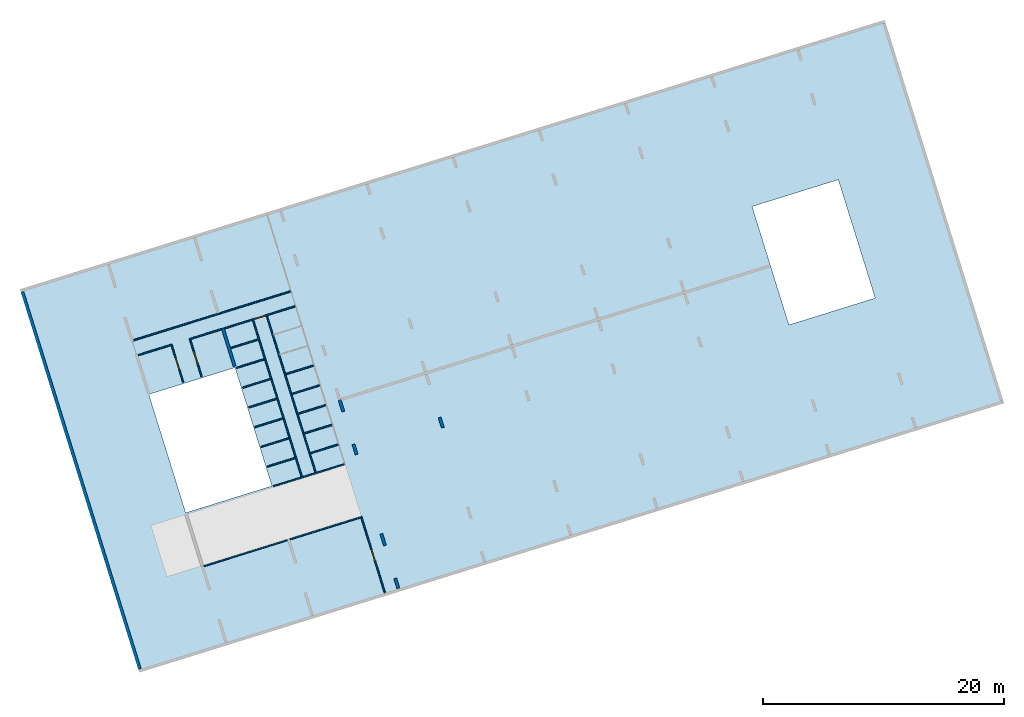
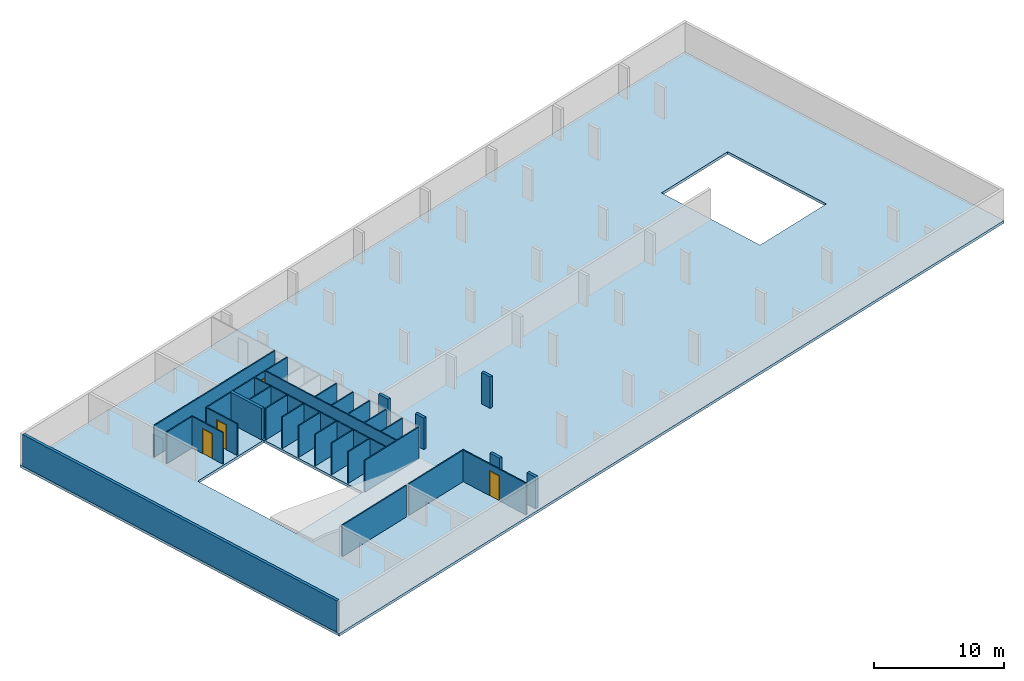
# One storey, part 1 of 4: 31 walls, 4 doors, 1 slab, 6 openings.
"""IFC4 building model written with IfcOpenShell, lengths in metres."""

from ifc_helpers import new_model, entity, si_unit, converted_unit, direction, frame, origin, place, context, subcontext, project, spatial, indexed_curve, outline, extrude, polygons, source, transform, mapped, material, constituent, constituent_set, type_object, type_shapes, element, fill, save


model = new_model("IFC4")

# Units and contexts
model_context = context("Model", 3, precision=1e-05, world=origin(), true_north=direction((6.12323399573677e-17, 1.0)))
body_context = subcontext(model_context, "Body", "Model", "MODEL_VIEW")
ifc_project = project(units=[si_unit("LENGTHUNIT", "METRE"), si_unit("AREAUNIT", "SQUARE_METRE"), si_unit("VOLUMEUNIT", "CUBIC_METRE"), converted_unit("PLANEANGLEUNIT", "DEGREE", entity("IfcPlaneAngleMeasure", 0.0174532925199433), si_unit("PLANEANGLEUNIT", "RADIAN"), dimensions=[0, 0, 0, 0, 0, 0, 0])], contexts=[model_context])

# Site, building, storey
site_placement = place(None, frame((13.1347999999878, 11.9886000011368, 0.0), z_axis=(0.0, 0.0, 1.0), x_axis=(0.954770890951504, 0.297342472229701, 0.0)))
site = spatial("IfcSite", under=ifc_project, at=site_placement, Name="Schiehaven", CompositionType="ELEMENT")
building_placement = place(site_placement, origin())
building = spatial("IfcBuilding", under=site, at=building_placement, Name="VORM huis", CompositionType="ELEMENT")
storey_placement = place(building_placement, frame((0.0, 0.0, -3.2)))
storey = spatial("IfcBuildingStorey", under=building, at=storey_placement, Name="-1 kelder", CompositionType="ELEMENT", Elevation=-3.2)

# Slab, openings
ifc_material_1 = material(Name="beton_gewapend_ihw", Category="Miscellaneous")
slab_type = type_object("IfcSlabType", Name="Floor:13_FL_funderingvloer 250mm", PredefinedType="FLOOR", material=ifc_material_1)
slab_placement = place(storey_placement, origin())
slab = element("IfcSlab", 1, at=slab_placement, inside=storey, type_object=slab_type, material=ifc_material_1, Name="Funderingvloer", ObjectType="Vloer", PredefinedType="FLOOR", context=body_context, shape_type="SweptSolid", body=[
    extrude(outline(indexed_curve([(-37.6250000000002, -16.6750000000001), (37.6250000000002, -16.6750000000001), (37.6250000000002, 16.6750000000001), (-37.6250000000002, 16.6750000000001), (-37.6250000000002, -16.6750000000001)], self_intersect=False), holes=[indexed_curve([(22.5000000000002, -5.14999999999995), (22.5000000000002, 5.15000000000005), (30.0000000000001, 5.15000000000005), (30.0000000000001, -5.14999999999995), (22.5000000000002, -5.14999999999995)], self_intersect=False), indexed_curve([(-29.9999999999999, -5.14999999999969), (-29.9999999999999, 5.15000000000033), (-22.4999999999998, 5.15000000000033), (-22.4999999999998, -5.14999999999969), (-29.9999999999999, -5.14999999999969)], self_intersect=False)]), frame((42.5000000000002, 17.0500000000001, -0.25), z_axis=(0.0, 0.0, 1.0), x_axis=(-1.0, 0.0, 0.0)), (0.0, 0.0, 1.0), 0.25),
])
opening_1_placement = place(slab_placement, origin())
element("IfcOpeningElement", 2, at=opening_1_placement, cuts=slab, Name="Funderingvloer", PredefinedType="OPENING", context=body_context, shape_type="SweptSolid", body=[
    extrude(outline(indexed_curve([(-5.15, -3.74999999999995), (5.15, -3.74999999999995), (5.15, 3.74999999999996), (-5.15, 3.74999999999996), (-5.15, -3.74999999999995)], self_intersect=False)), frame((16.2500000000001, 17.05, 0.0), z_axis=(0.0, 0.0, -1.0), x_axis=(0.0, -1.0, 0.0)), (0.0, 0.0, 1.0), 33.3500000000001),
])
opening_2_placement = place(slab_placement, origin())
element("IfcOpeningElement", 3, at=opening_2_placement, cuts=slab, Name="Funderingvloer", PredefinedType="OPENING", context=body_context, shape_type="SweptSolid", body=[
    extrude(outline(indexed_curve([(-5.15000000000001, -3.75000000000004), (5.15000000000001, -3.75000000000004), (5.15000000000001, 3.75000000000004), (-5.15000000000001, 3.75000000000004), (-5.15000000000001, -3.75000000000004)], self_intersect=False)), frame((68.7500000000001, 17.0499999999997, 0.0), z_axis=(0.0, 0.0, -1.0), x_axis=(0.0, -1.0, 0.0)), (0.0, 0.0, 1.0), 33.3500000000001),
])

# Walls
wall_type_1 = type_object("IfcWallType", Name="Basic Wall:28_WA_skelet_keerwand 250mm_gen", PredefinedType="STANDARD")
wall_1_placement = place(storey_placement, frame((5.0, 0.624999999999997, 0.0), z_axis=(0.0, 0.0, 1.0), x_axis=(0.0, 1.0, 0.0)))
element("IfcWall", 4, at=wall_1_placement, inside=storey, type_object=wall_type_1, material=ifc_material_1, Name="Constructieve keerwand", ObjectType="Wand", PredefinedType="NOTDEFINED", context=body_context, shape_type="SweptSolid", body=[
    extrude(outline(indexed_curve([(32.8500000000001, 0.125), (0.0, 0.125), (0.0, -0.125), (32.8500000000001, -0.125), (32.8500000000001, 0.125)], self_intersect=False)), origin(), (0.0, 0.0, 1.0), 2.95),
])
wall_type_2 = type_object("IfcWallType", Name="Basic Wall:28_WA_skelet_wand 250mm_gen", PredefinedType="STANDARD")
wall_2_placement = place(storey_placement, frame((20.0, 25.6249999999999, 0.0), z_axis=(0.0, 0.0, 1.0), x_axis=(0.0, -1.0, 0.0)))
element("IfcWall", 5, at=wall_2_placement, inside=storey, type_object=wall_type_2, material=ifc_material_1, Name="Constructieve wand", ObjectType="Wand", PredefinedType="NOTDEFINED", context=body_context, shape_type="SweptSolid", body=[
    extrude(outline(indexed_curve([(3.29999999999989, 0.125000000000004), (-1.06511520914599e-15, 0.125000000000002), (1.06511520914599e-15, -0.125000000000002), (3.29999999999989, -0.125), (3.29999999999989, 0.125000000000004)], self_intersect=False)), origin(), (0.0, 0.0, 1.0), 2.95),
])
for number, where, z_axis, x_axis, name in (
    (6, (35.0, 12.2949999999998, 0.0), (0.0, 0.0, 1.0), (0.0, 1.0, 0.0), "Constructieve wand"),
    (7, (27.5000000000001, 12.2949999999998, 0.0), (0.0, 0.0, 1.0), (0.0, 1.0, 0.0), "Constructieve wand"),
):
    element("IfcWall", number, at=place(storey_placement, frame(where, z_axis=z_axis, x_axis=x_axis)), inside=storey, type_object=wall_type_2, material=ifc_material_1, Name=name, ObjectType="Wand", PredefinedType="NOTDEFINED", context=body_context, shape_type="SweptSolid", body=[
        extrude(outline(indexed_curve([(0.900000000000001, 0.125000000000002), (0.0, 0.125000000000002), (0.0, -0.125000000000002), (0.900000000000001, -0.125000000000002), (0.900000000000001, 0.125000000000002)], self_intersect=False)), origin(), (0.0, 0.0, 1.0), 2.95),
    ])
wall_3_placement = place(storey_placement, frame((27.5000000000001, 16.0249999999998, 0.0), z_axis=(0.0, 0.0, 1.0), x_axis=(0.0, 1.0, 0.0)))
element("IfcWall", 8, at=wall_3_placement, inside=storey, type_object=wall_type_2, material=ifc_material_1, Name="Constructieve wand", ObjectType="Wand", PredefinedType="NOTDEFINED", context=body_context, shape_type="SweptSolid", body=[
    extrude(outline(indexed_curve([(1.02500000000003, 0.125000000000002), (0.0, 0.125000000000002), (0.0, -0.125000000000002), (1.02500000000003, -0.125000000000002), (1.02500000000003, 0.125000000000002)], self_intersect=False)), origin(), (0.0, 0.0, 1.0), 2.95),
])
wall_4_placement = place(storey_placement, frame((27.5000000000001, 4.3749999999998, 0.0), z_axis=(0.0, 0.0, 1.0), x_axis=(0.0, 1.0, 0.0)))
element("IfcWall", 9, at=wall_4_placement, inside=storey, type_object=wall_type_2, material=ifc_material_1, Name="Constructieve wand", ObjectType="Wand", PredefinedType="NOTDEFINED", context=body_context, shape_type="SweptSolid", body=[
    extrude(outline(indexed_curve([(1.025, 0.125000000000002), (0.0, 0.125000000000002), (0.0, -0.125000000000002), (1.025, -0.125000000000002), (1.025, 0.125000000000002)], self_intersect=False)), origin(), (0.0, 0.0, 1.0), 2.95),
])
wall_5_placement = place(storey_placement, frame((27.5000000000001, 1.52500000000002, 0.0), z_axis=(0.0, 0.0, 1.0), x_axis=(0.0, -1.0, 0.0)))
element("IfcWall", 10, at=wall_5_placement, inside=storey, type_object=wall_type_2, material=ifc_material_1, Name="Constructieve wand", ObjectType="Wand", PredefinedType="NOTDEFINED", context=body_context, shape_type="SweptSolid", body=[
    extrude(outline(indexed_curve([(0.900000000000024, 0.125000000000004), (2.39074561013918e-16, 0.125000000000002), (-2.39074561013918e-16, -0.125000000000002), (0.900000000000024, -0.125), (0.900000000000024, 0.125000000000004)], self_intersect=False)), origin(), (0.0, 0.0, 1.0), 2.95),
])
ifc_material_2 = material(Name="ntb_ntb_ntb", Category="Miscellaneous")
wall_type_3 = type_object("IfcWallType", Name="Basic Wall:22_WA_afbouw_binnenwand 100mm_gen", PredefinedType="STANDARD")
wall_6_placement = place(storey_placement, frame((26.2750000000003, 11.825, 0.0), z_axis=(0.0, 0.0, 1.0), x_axis=(-1.0, 0.0, 0.0)))
element("IfcWall", 11, at=wall_6_placement, inside=storey, type_object=wall_type_3, material=ifc_material_2, Name="Binnenwand", ObjectType="Wand", PredefinedType="NOTDEFINED", context=body_context, shape_type="SweptSolid", body=[
    extrude(outline(indexed_curve([(6.15000000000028, 0.0499999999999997), (-1.60577808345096e-16, 0.0499999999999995), (1.60577808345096e-16, -0.0499999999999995), (6.15000000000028, -0.0499999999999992), (6.15000000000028, 0.0499999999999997)], self_intersect=False)), origin(), (0.0, 0.0, 1.0), 2.95),
])
wall_7_placement = place(storey_placement, frame((26.3750000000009, 7.22500000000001, 0.0), z_axis=(0.0, 0.0, 1.0), x_axis=(-1.0, 0.0, 0.0)))
element("IfcWall", 12, at=wall_7_placement, inside=storey, type_object=wall_type_3, material=ifc_material_2, Name="Binnenwand", ObjectType="Wand", PredefinedType="NOTDEFINED", context=body_context, shape_type="SweptSolid", body=[
    extrude(outline(indexed_curve([(6.25000000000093, 0.05), (-1.60577808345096e-16, 0.0499999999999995), (1.60577808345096e-16, -0.0499999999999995), (6.25000000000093, -0.0499999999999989), (6.25000000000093, 0.05)], self_intersect=False)), origin(), (0.0, 0.0, 1.0), 2.95),
])

# Wall, opening, door
wall_8_placement = place(storey_placement, frame((26.3250000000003, 0.624999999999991, 0.0), z_axis=(0.0, 0.0, 1.0), x_axis=(0.0, 1.0, 0.0)))
wall_8 = element("IfcWall", 13, at=wall_8_placement, inside=storey, type_object=wall_type_3, material=ifc_material_2, Name="Binnenwand", ObjectType="Wand", PredefinedType="NOTDEFINED", context=body_context, shape_type="Tessellation", body=[
    polygons([(6.55000000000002, -0.0499999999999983, 2.95), (0.0, -0.0499999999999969, 2.95), (0.0, -0.0499999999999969, 0.0), (2.75, -0.0499999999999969, 0.0), (2.75, -0.0499999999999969, 2.34999999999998), (3.8, -0.0499999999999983, 2.34999999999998), (3.8, -0.0499999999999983, 0.0), (6.55000000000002, -0.0499999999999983, 0.0), (0.0, 0.0500000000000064, 2.95), (6.55000000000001, 0.0499999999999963, 2.95), (6.55000000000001, 0.0499999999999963, 0.0), (3.8, 0.0500000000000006, 0.0), (3.8, 0.0500000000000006, 2.34999999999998), (2.75, 0.0500000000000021, 2.34999999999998), (2.75, 0.0500000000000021, 0.0), (0.0, 0.0500000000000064, 0.0)], [[[1, 2, 3, 4, 5, 6, 7, 8]], [[9, 10, 11, 12, 13, 14, 15, 16]], [[3, 16, 15, 4]], [[2, 1, 10, 9]], [[3, 2, 9, 16]], [[14, 5, 4, 15]], [[5, 14, 13, 6]], [[6, 13, 12, 7]], [[1, 8, 11, 10]], [[11, 8, 7, 12]]], closed=True),
])
opening_3_placement = place(wall_8_placement, frame((3.80000000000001, 0.0499999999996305, 0.0)))
opening_3 = element("IfcOpeningElement", 14, at=opening_3_placement, cuts=wall_8, Name="Vluchtdeur", PredefinedType="OPENING", context=body_context, shape_type="SweptSolid", body=[
    extrude(outline(indexed_curve([(2.34999999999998, -1.37155131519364e-28), (2.34999999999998, 1.05), (0.0, 1.05), (0.0, -1.37155131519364e-28), (2.34999999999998, -1.37155131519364e-28)], self_intersect=False)), frame((0.0, 0.0, 0.0), z_axis=(0.0, -1.0, 0.0), x_axis=(0.0, 0.0, 1.0)), (0.0, 0.0, 1.0), 0.1),
])
ifc_material_3 = material(Name="PD_a_binnenwandopeningen", Category="Miscellaneous")
ifc_constituent_1 = constituent(ifc_material_3, Name="PD_a_binnenwandopeningen", Category="Miscellaneous")
ifc_material_4 = material(Name="metaal_aluminium_ntb", Category="Miscellaneous")
ifc_constituent_2 = constituent(ifc_material_4, Name="metaal_aluminium_ntb", Category="Miscellaneous")
ifc_constituent_set_1 = constituent_set(constituents=[ifc_constituent_1, ifc_constituent_2])
ifc_constituent_3 = constituent(ifc_material_3, Name="PD_a_binnenwandopeningen", Category="Miscellaneous")
ifc_constituent_4 = constituent(ifc_material_4, Name="Panel", Category="Miscellaneous")
ifc_constituent_set_2 = constituent_set(constituents=[ifc_constituent_3, ifc_constituent_4])
door_type_1 = type_object("IfcDoorType", Name="32_DO_binnendeur enkel:binnendeur zelfsluitend 30min", OperationType="NOTDEFINED", PredefinedType="DOOR", material=ifc_constituent_set_2)
shared_shape_1 = source(origin(), body_context, "Body", "SweptSolid", [
    extrude(outline(indexed_curve([(0.475, -1.16249999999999), (0.525, -1.16249999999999), (0.525, 1.18749999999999), (-0.525, 1.18749999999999), (-0.525, -1.16249999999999), (-0.475, -1.16249999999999), (-0.475, 1.13749999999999), (0.475, 1.13749999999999), (0.475, -1.16249999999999)], self_intersect=False)), frame((0.525000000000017, 0.100000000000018, 1.16249999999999), z_axis=(0.0, -1.0, 0.0), x_axis=(1.0, 0.0, 0.0)), (0.0, 0.0, 1.0), 0.1),
    extrude(outline(indexed_curve([(-0.475, -0.025), (0.475, -0.025), (0.475, 0.025), (-0.475, 0.025), (-0.475, -0.025)], self_intersect=False)), frame((0.525000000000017, 0.0499999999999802, 0.0)), (0.0, 0.0, 1.0), 2.29999999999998),
])
type_shapes(door_type_1, [shared_shape_1])
door_1_placement = place(opening_3_placement, frame((0.0, 0.0, 0.0), z_axis=(0.0, 0.0, 1.0), x_axis=(-1.0, 0.0, 0.0)))
door_1 = element("IfcDoor", 15, at=door_1_placement, inside=storey, type_object=door_type_1, material=ifc_constituent_set_1, Name="Vluchtdeur", ObjectType="Deur", OperationType="NOTDEFINED", OverallHeight=2.34999999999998, OverallWidth=1.05, PredefinedType="DOOR", context=body_context, shape_type="MappedRepresentation", body=[
    mapped(shared_shape_1, transform((0.0, 0.0, 0.0), scale=1.0)),
])
fill(opening_3, door_1)

# Walls
wall_9_placement = place(storey_placement, frame((12.6250000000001, 7.22500000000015, 0.0)))
element("IfcWall", 16, at=wall_9_placement, inside=storey, type_object=wall_type_3, material=ifc_material_2, Name="Binnenwand", ObjectType="Wand", PredefinedType="NOTDEFINED", context=body_context, shape_type="SweptSolid", body=[
    extrude(outline(indexed_curve([(7.25000000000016, 0.0499999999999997), (-4.87118418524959e-16, 0.0499999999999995), (4.87118418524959e-16, -0.0499999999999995), (7.25000000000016, -0.0499999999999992), (7.25000000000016, 0.0499999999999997)], self_intersect=False)), origin(), (0.0, 0.0, 1.0), 2.95),
])
wall_10_placement = place(storey_placement, frame((26.2750000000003, 26.8749999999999, 0.0), z_axis=(0.0, 0.0, 1.0), x_axis=(-1.0, 0.0, 0.0)))
element("IfcWall", 17, at=wall_10_placement, inside=storey, type_object=wall_type_3, material=ifc_material_2, Name="Binnenwand", ObjectType="Wand", PredefinedType="NOTDEFINED", context=body_context, shape_type="SweptSolid", body=[
    extrude(outline(indexed_curve([(13.6500000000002, 0.0500000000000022), (-1.60577808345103e-16, 0.0500000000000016), (1.60577808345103e-16, -0.0500000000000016), (13.6500000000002, -0.0500000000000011), (13.6500000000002, 0.0500000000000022)], self_intersect=False)), origin(), (0.0, 0.0, 1.0), 2.95),
])

# Wall, opening, door
wall_11_placement = place(storey_placement, frame((26.2750000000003, 25.5749999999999, 0.0), z_axis=(0.0, 0.0, 1.0), x_axis=(-1.0, 0.0, 0.0)))
wall_11 = element("IfcWall", 18, at=wall_11_placement, inside=storey, type_object=wall_type_3, material=ifc_material_2, Name="Binnenwand", ObjectType="Wand", PredefinedType="NOTDEFINED", context=body_context, shape_type="Tessellation", body=[
    polygons([(3.6000000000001, -0.0499999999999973, 2.34999999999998), (3.6000000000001, -0.0499999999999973, 0.0), (6.15000000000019, -0.0499999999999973, 0.0), (6.15000000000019, -0.0499999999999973, 2.95), (2.3054590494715e-15, -0.0499999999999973, 2.95), (2.3054590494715e-15, -0.0499999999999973, 0.0), (2.55000000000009, -0.0499999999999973, 0.0), (2.5500000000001, -0.0499999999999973, 2.34999999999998), (6.15000000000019, 0.0500000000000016, 0.0), (3.7250000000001, 0.0500000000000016, 0.0), (3.6250000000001, 0.0500000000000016, 0.0), (3.6000000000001, 0.0500000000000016, 0.0), (3.6000000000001, 0.0500000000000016, 2.34999999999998), (2.5500000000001, 0.0500000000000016, 2.34999999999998), (2.55000000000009, 0.0500000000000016, 0.0), (2.5250000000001, 0.0500000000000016, 0.0), (2.4250000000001, 0.050000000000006, 0.0), (2.02600946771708e-15, 0.0500000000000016, 0.0), (6.35747798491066e-15, 0.0500000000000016, 2.95), (2.4250000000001, 0.050000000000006, 2.95), (2.5250000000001, 0.0500000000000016, 2.95), (3.6250000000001, 0.0500000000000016, 2.95), (3.7250000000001, 0.0500000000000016, 2.95), (6.15000000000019, 0.0500000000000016, 2.95)], [[[1, 2, 3, 4, 5, 6, 7, 8]], [[9, 10, 11, 12, 13, 14, 15, 16, 17, 18, 19, 20, 21, 22, 23, 24]], [[7, 6, 18, 17, 16, 15]], [[4, 3, 9, 24]], [[5, 4, 24, 23, 22, 21, 20, 19]], [[6, 5, 19, 18]], [[15, 14, 8, 7]], [[13, 12, 2, 1]], [[14, 13, 1, 8]], [[3, 2, 12, 11, 10, 9]]], closed=True),
])
opening_4_placement = place(wall_11_placement, frame((3.60000000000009, 0.049999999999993, 0.0)))
opening_4 = element("IfcOpeningElement", 19, at=opening_4_placement, cuts=wall_11, Name="Vluchtdeur", PredefinedType="OPENING", context=body_context, shape_type="SweptSolid", body=[
    extrude(outline(indexed_curve([(2.34999999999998, 1.05), (0.0, 1.05), (0.0, 0.0), (2.34999999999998, 0.0), (2.34999999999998, 1.05)], self_intersect=False)), frame((0.0, 0.0, 0.0), z_axis=(0.0, -1.0, 0.0), x_axis=(0.0, 0.0, 1.0)), (0.0, 0.0, 1.0), 0.1),
])
ifc_constituent_5 = constituent(ifc_material_3, Name="PD_a_binnenwandopeningen", Category="Miscellaneous")
ifc_constituent_6 = constituent(ifc_material_4, Name="metaal_aluminium_ntb", Category="Miscellaneous")
ifc_constituent_set_3 = constituent_set(constituents=[ifc_constituent_5, ifc_constituent_6])
ifc_constituent_7 = constituent(ifc_material_3, Name="PD_a_binnenwandopeningen", Category="Miscellaneous")
ifc_constituent_8 = constituent(ifc_material_4, Name="Panel", Category="Miscellaneous")
ifc_constituent_set_4 = constituent_set(constituents=[ifc_constituent_7, ifc_constituent_8])
door_type_2 = type_object("IfcDoorType", Name="32_DO_binnendeur enkel:binnendeur zelfsluitend 30min", OperationType="NOTDEFINED", PredefinedType="DOOR", material=ifc_constituent_set_4)
shared_shape_2 = source(origin(), body_context, "Body", "SweptSolid", [
    extrude(outline(indexed_curve([(-1.16249999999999, -0.525000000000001), (1.18749999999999, -0.525), (1.18749999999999, 0.525), (-1.16249999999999, 0.525), (-1.16249999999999, 0.475), (1.13749999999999, 0.475), (1.13749999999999, -0.475), (-1.16249999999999, -0.475), (-1.16249999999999, -0.525000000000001)], self_intersect=False)), frame((0.525000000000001, 0.0, 1.16249999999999), z_axis=(0.0, 1.0, 0.0), x_axis=(0.0, 0.0, 1.0)), (0.0, 0.0, 1.0), 0.1),
    extrude(outline(indexed_curve([(-0.025, -0.475), (0.025, -0.475), (0.025, 0.475), (-0.025, 0.475), (-0.025, -0.475)], self_intersect=False)), frame((0.525000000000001, 0.0499999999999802, 0.0), z_axis=(0.0, 0.0, 1.0), x_axis=(0.0, 1.0, 0.0)), (0.0, 0.0, 1.0), 2.29999999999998),
])
type_shapes(door_type_2, [shared_shape_2])
door_2_placement = place(opening_4_placement, frame((0.0, 0.0, 0.0), z_axis=(0.0, 0.0, 1.0), x_axis=(-1.0, 0.0, 0.0)))
door_2 = element("IfcDoor", 20, at=door_2_placement, inside=storey, type_object=door_type_2, material=ifc_constituent_set_3, Name="Vluchtdeur", ObjectType="Deur", OperationType="NOTDEFINED", OverallHeight=2.34999999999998, OverallWidth=1.05, PredefinedType="DOOR", context=body_context, shape_type="MappedRepresentation", body=[
    mapped(shared_shape_2, transform((0.0, 0.0, 0.0), scale=1.0)),
])
fill(opening_4, door_2)

wall_12_placement = place(storey_placement, frame((17.1250000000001, 25.5249999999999, 0.0), z_axis=(0.0, 0.0, 1.0), x_axis=(0.0, -1.0, 0.0)))
wall_12 = element("IfcWall", 21, at=wall_12_placement, inside=storey, type_object=wall_type_3, material=ifc_material_2, Name="Binnenwand", ObjectType="Wand", PredefinedType="NOTDEFINED", context=body_context, shape_type="Tessellation", body=[
    polygons([(0.0, -0.0500000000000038, 0.0), (1.07499999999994, -0.0500000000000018, 0.0), (1.07499999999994, -0.0500000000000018, 2.34999999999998), (2.12499999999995, -0.050000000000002, 2.34999999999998), (2.12499999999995, -0.050000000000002, 0.0), (3.1999999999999, -0.0500000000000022, 0.0), (3.1999999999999, -0.0500000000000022, 2.95), (0.0, -0.0500000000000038, 2.95), (1.07499999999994, 0.0499999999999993, 2.34999999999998), (1.07499999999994, 0.0499999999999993, 0.0), (0.0, 0.0499999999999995, 0.0), (0.0, 0.0499999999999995, 2.95), (3.1999999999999, 0.0499999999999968, 2.95), (3.1999999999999, 0.0499999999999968, 0.0), (2.12499999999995, 0.0499999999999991, 0.0), (2.12499999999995, 0.0499999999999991, 2.34999999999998)], [[[1, 2, 3, 4, 5, 6, 7, 8]], [[9, 10, 11, 12, 13, 14, 15, 16]], [[11, 10, 2, 1]], [[7, 6, 14, 13]], [[8, 7, 13, 12]], [[1, 8, 12, 11]], [[5, 4, 16, 15]], [[3, 2, 10, 9]], [[4, 3, 9, 16]], [[15, 14, 6, 5]]], closed=True),
])
opening_5_placement = place(wall_12_placement, frame((2.12499999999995, 0.0499999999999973, 0.0)))
opening_5 = element("IfcOpeningElement", 22, at=opening_5_placement, cuts=wall_12, Name="Vluchtdeur", PredefinedType="OPENING", context=body_context, shape_type="SweptSolid", body=[
    extrude(outline(indexed_curve([(2.34999999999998, 0.0), (2.34999999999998, 1.05), (0.0, 1.05), (0.0, 0.0), (2.34999999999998, 0.0)], self_intersect=False)), frame((0.0, 0.0, 0.0), z_axis=(0.0, -1.0, 0.0), x_axis=(0.0, 0.0, 1.0)), (0.0, 0.0, 1.0), 0.1),
])
ifc_constituent_9 = constituent(ifc_material_3, Name="PD_a_binnenwandopeningen", Category="Miscellaneous")
ifc_constituent_10 = constituent(ifc_material_4, Name="metaal_aluminium_ntb", Category="Miscellaneous")
ifc_constituent_set_5 = constituent_set(constituents=[ifc_constituent_9, ifc_constituent_10])
door_3_placement = place(opening_5_placement, frame((0.0, 0.0, 0.0), z_axis=(0.0, 0.0, 1.0), x_axis=(-1.0, 0.0, 0.0)))
door_3 = element("IfcDoor", 23, at=door_3_placement, inside=storey, type_object=door_type_1, material=ifc_constituent_set_5, Name="Vluchtdeur", ObjectType="Deur", OperationType="NOTDEFINED", OverallHeight=2.34999999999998, OverallWidth=1.05, PredefinedType="DOOR", context=body_context, shape_type="MappedRepresentation", body=[
    mapped(shared_shape_1, transform((0.0, 0.0, 0.0), scale=1.0)),
])
fill(opening_5, door_3)

wall_13_placement = place(storey_placement, frame((15.5250000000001, 25.6249999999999, 0.0), z_axis=(0.0, 0.0, 1.0), x_axis=(0.0, -1.0, 0.0)))
wall_13 = element("IfcWall", 24, at=wall_13_placement, inside=storey, type_object=wall_type_3, material=ifc_material_2, Name="Binnenwand", ObjectType="Wand", PredefinedType="NOTDEFINED", context=body_context, shape_type="Tessellation", body=[
    polygons([(0.0, -0.0499999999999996, 0.0), (0.0999999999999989, -0.0500000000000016, 0.0), (1.17499999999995, -0.0500000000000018, 0.0), (1.17499999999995, -0.0500000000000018, 2.34999999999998), (2.22499999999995, -0.050000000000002, 2.34999999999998), (2.22499999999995, -0.050000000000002, 0.0), (3.2999999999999, -0.0500000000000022, 0.0), (3.2999999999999, -0.0500000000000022, 2.95), (0.0999999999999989, -0.0500000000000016, 2.95), (0.0, -0.0499999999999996, 2.95), (1.17499999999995, 0.0499999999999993, 2.34999999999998), (1.17499999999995, 0.0499999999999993, 0.0), (0.0, 0.0499999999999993, 0.0), (0.0, 0.0499999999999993, 2.95), (3.2999999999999, 0.0500000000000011, 2.95), (3.2999999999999, 0.0500000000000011, 0.0), (2.22499999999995, 0.0499999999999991, 0.0), (2.22499999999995, 0.0499999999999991, 2.34999999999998)], [[[1, 2, 3, 4, 5, 6, 7, 8, 9, 10]], [[11, 12, 13, 14, 15, 16, 17, 18]], [[13, 12, 3, 2, 1]], [[8, 7, 16, 15]], [[10, 9, 8, 15, 14]], [[1, 10, 14, 13]], [[6, 5, 18, 17]], [[4, 3, 12, 11]], [[5, 4, 11, 18]], [[17, 16, 7, 6]]], closed=True),
])
opening_6_placement = place(wall_13_placement, frame((1.17499999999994, -0.0500000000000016, 0.0)))
opening_6 = element("IfcOpeningElement", 25, at=opening_6_placement, cuts=wall_13, Name="Vluchtdeur", PredefinedType="OPENING", context=body_context, shape_type="SweptSolid", body=[
    extrude(outline(indexed_curve([(2.34999999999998, 1.05), (0.0, 1.05), (0.0, 0.0), (2.34999999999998, 0.0), (2.34999999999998, 1.05)], self_intersect=False)), frame((0.0, 0.0, 0.0), z_axis=(0.0, 1.0, 0.0), x_axis=(0.0, 0.0, 1.0)), (0.0, 0.0, 1.0), 0.1),
])
ifc_constituent_11 = constituent(ifc_material_3, Name="PD_a_binnenwandopeningen", Category="Miscellaneous")
ifc_constituent_12 = constituent(ifc_material_4, Name="metaal_aluminium_ntb", Category="Miscellaneous")
ifc_constituent_set_6 = constituent_set(constituents=[ifc_constituent_11, ifc_constituent_12])
door_4_placement = place(opening_6_placement, origin())
door_4 = element("IfcDoor", 26, at=door_4_placement, inside=storey, type_object=door_type_2, material=ifc_constituent_set_6, Name="Vluchtdeur", ObjectType="Deur", OperationType="NOTDEFINED", OverallHeight=2.34999999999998, OverallWidth=1.05, PredefinedType="DOOR", context=body_context, shape_type="MappedRepresentation", body=[
    mapped(shared_shape_2, transform((0.0, 0.0, 0.0), scale=1.0)),
])
fill(opening_6, door_4)

# Walls
wall_14_placement = place(storey_placement, frame((15.4750000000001, 25.5749999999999, 0.0), z_axis=(0.0, 0.0, 1.0), x_axis=(-1.0, 0.0, 0.0)))
element("IfcWall", 27, at=wall_14_placement, inside=storey, type_object=wall_type_3, material=ifc_material_2, Name="Binnenwand", ObjectType="Wand", PredefinedType="NOTDEFINED", context=body_context, shape_type="SweptSolid", body=[
    extrude(outline(indexed_curve([(2.84999999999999, 0.0500000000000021), (-1.60577808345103e-16, 0.0500000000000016), (1.60577808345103e-16, -0.0500000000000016), (2.84999999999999, -0.0500000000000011), (2.84999999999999, 0.0500000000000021)], self_intersect=False)), origin(), (0.0, 0.0, 1.0), 2.95),
])
wall_15_placement = place(storey_placement, frame((19.8750000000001, 25.5749999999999, 0.0), z_axis=(0.0, 0.0, 1.0), x_axis=(-1.0, 0.0, 0.0)))
element("IfcWall", 28, at=wall_15_placement, inside=storey, type_object=wall_type_3, material=ifc_material_2, Name="Binnenwand", ObjectType="Wand", PredefinedType="NOTDEFINED", context=body_context, shape_type="SweptSolid", body=[
    extrude(outline(indexed_curve([(2.80000000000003, 0.0500000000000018), (-1.5750794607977e-16, 0.0500000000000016), (1.5750794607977e-16, -0.0500000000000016), (2.80000000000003, -0.0500000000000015), (2.80000000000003, 0.0500000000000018)], self_intersect=False)), origin(), (0.0, 0.0, 1.0), 2.95),
])
for number, where, z_axis, x_axis in (
    (29, (22.6000000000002, 25.5249999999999, 0.0), (0.0, 0.0, 1.0), (0.0, -1.0, 0.0)),
    (30, (23.8000000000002, 25.5249999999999, 0.0), (0.0, 0.0, 1.0), (0.0, -1.0, 0.0)),
):
    element("IfcWall", number, at=place(storey_placement, frame(where, z_axis=z_axis, x_axis=x_axis)), inside=storey, type_object=wall_type_3, material=ifc_material_2, Name="Binnenwand", ObjectType="Wand", PredefinedType="NOTDEFINED", context=body_context, shape_type="SweptSolid", body=[
        extrude(outline(indexed_curve([(13.6499999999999, 0.0500000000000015), (-9.48496755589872e-17, 0.0500000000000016), (9.48496755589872e-17, -0.0500000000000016), (13.6499999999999, -0.0500000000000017), (13.6499999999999, 0.0500000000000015)], self_intersect=False)), origin(), (0.0, 0.0, 1.0), 2.95),
    ])
wall_16_placement = place(storey_placement, frame((23.8500000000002, 18.6999999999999, 0.0)))
element("IfcWall", 31, at=wall_16_placement, inside=storey, type_object=wall_type_3, material=ifc_material_2, Name="Binnenwand", ObjectType="Wand", PredefinedType="NOTDEFINED", context=body_context, shape_type="SweptSolid", body=[
    extrude(outline(indexed_curve([(2.42500000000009, 0.0499999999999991), (-1.71543307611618e-16, 0.0499999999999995), (1.71543307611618e-16, -0.0499999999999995), (2.42500000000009, -0.0499999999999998), (2.42500000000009, 0.0499999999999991)], self_intersect=False)), origin(), (0.0, 0.0, 1.0), 2.95),
])
wall_17_placement = place(storey_placement, frame((23.8500000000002, 20.4187499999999, 0.0)))
element("IfcWall", 32, at=wall_17_placement, inside=storey, type_object=wall_type_3, material=ifc_material_2, Name="Binnenwand", ObjectType="Wand", PredefinedType="NOTDEFINED", context=body_context, shape_type="SweptSolid", body=[
    extrude(outline(indexed_curve([(2.42500000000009, 0.0500000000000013), (-1.71543307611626e-16, 0.0500000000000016), (1.71543307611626e-16, -0.0500000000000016), (2.42500000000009, -0.050000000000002), (2.42500000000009, 0.0500000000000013)], self_intersect=False)), origin(), (0.0, 0.0, 1.0), 2.95),
])
wall_18_placement = place(storey_placement, frame((22.5500000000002, 18.6999999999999, 0.0), z_axis=(0.0, 0.0, 1.0), x_axis=(-1.0, 0.0, 0.0)))
element("IfcWall", 33, at=wall_18_placement, inside=storey, type_object=wall_type_3, material=ifc_material_2, Name="Binnenwand", ObjectType="Wand", PredefinedType="NOTDEFINED", context=body_context, shape_type="SweptSolid", body=[
    extrude(outline(indexed_curve([(2.42500000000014, 0.0499999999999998), (1.71543307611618e-16, 0.0499999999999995), (-1.71543307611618e-16, -0.0499999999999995), (2.42500000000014, -0.0499999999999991), (2.42500000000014, 0.0499999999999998)], self_intersect=False)), origin(), (0.0, 0.0, 1.0), 2.95),
])
wall_19_placement = place(storey_placement, frame((22.5500000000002, 22.1374999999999, 0.0), z_axis=(0.0, 0.0, 1.0), x_axis=(-1.0, 0.0, 0.0)))
element("IfcWall", 34, at=wall_19_placement, inside=storey, type_object=wall_type_3, material=ifc_material_2, Name="Binnenwand", ObjectType="Wand", PredefinedType="NOTDEFINED", context=body_context, shape_type="SweptSolid", body=[
    extrude(outline(indexed_curve([(2.42500000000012, 0.050000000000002), (1.71543307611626e-16, 0.0500000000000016), (-1.71543307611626e-16, -0.0500000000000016), (2.42500000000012, -0.0500000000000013), (2.42500000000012, 0.050000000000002)], self_intersect=False)), origin(), (0.0, 0.0, 1.0), 2.95),
])
wall_20_placement = place(storey_placement, frame((22.5500000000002, 23.8562499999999, 0.0), z_axis=(0.0, 0.0, 1.0), x_axis=(-1.0, 0.0, 0.0)))
element("IfcWall", 35, at=wall_20_placement, inside=storey, type_object=wall_type_3, material=ifc_material_2, Name="Binnenwand", ObjectType="Wand", PredefinedType="NOTDEFINED", context=body_context, shape_type="SweptSolid", body=[
    extrude(outline(indexed_curve([(2.4250000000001, 0.050000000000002), (1.71543307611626e-16, 0.0500000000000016), (-1.71543307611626e-16, -0.0500000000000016), (2.4250000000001, -0.0500000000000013), (2.4250000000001, 0.050000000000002)], self_intersect=False)), origin(), (0.0, 0.0, 1.0), 2.95),
])
wall_21_placement = place(storey_placement, frame((22.5500000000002, 20.4187499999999, 0.0), z_axis=(0.0, 0.0, 1.0), x_axis=(-1.0, 0.0, 0.0)))
element("IfcWall", 36, at=wall_21_placement, inside=storey, type_object=wall_type_3, material=ifc_material_2, Name="Binnenwand", ObjectType="Wand", PredefinedType="NOTDEFINED", context=body_context, shape_type="SweptSolid", body=[
    extrude(outline(indexed_curve([(2.42500000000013, 0.050000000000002), (1.71543307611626e-16, 0.0500000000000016), (-1.71543307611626e-16, -0.0500000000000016), (2.42500000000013, -0.0500000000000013), (2.42500000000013, 0.050000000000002)], self_intersect=False)), origin(), (0.0, 0.0, 1.0), 2.95),
])
for number, where in (
    (37, (23.8500000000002, 15.2625, 0.0)),
    (38, (23.8500000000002, 13.54375, 0.0)),
    (39, (23.8500000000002, 16.9812499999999, 0.0)),
):
    element("IfcWall", number, at=place(storey_placement, frame(where)), inside=storey, type_object=wall_type_3, material=ifc_material_2, Name="Binnenwand", ObjectType="Wand", PredefinedType="NOTDEFINED", context=body_context, shape_type="SweptSolid", body=[
        extrude(outline(indexed_curve([(2.42500000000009, 0.0499999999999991), (-1.71543307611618e-16, 0.0499999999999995), (1.71543307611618e-16, -0.0499999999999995), (2.42500000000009, -0.0499999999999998), (2.42500000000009, 0.0499999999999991)], self_intersect=False)), origin(), (0.0, 0.0, 1.0), 2.95),
    ])
wall_22_placement = place(storey_placement, frame((22.5500000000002, 15.2625, 0.0), z_axis=(0.0, 0.0, 1.0), x_axis=(-1.0, 0.0, 0.0)))
element("IfcWall", 40, at=wall_22_placement, inside=storey, type_object=wall_type_3, material=ifc_material_2, Name="Binnenwand", ObjectType="Wand", PredefinedType="NOTDEFINED", context=body_context, shape_type="SweptSolid", body=[
    extrude(outline(indexed_curve([(2.42500000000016, 0.0499999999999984), (-5.14629922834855e-16, 0.0499999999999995), (5.14629922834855e-16, -0.0499999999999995), (2.42500000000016, -0.0500000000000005), (2.42500000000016, 0.0499999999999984)], self_intersect=False)), origin(), (0.0, 0.0, 1.0), 2.95),
])
wall_23_placement = place(storey_placement, frame((22.5500000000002, 13.54375, 0.0), z_axis=(0.0, 0.0, 1.0), x_axis=(-1.0, 0.0, 0.0)))
element("IfcWall", 41, at=wall_23_placement, inside=storey, type_object=wall_type_3, material=ifc_material_2, Name="Binnenwand", ObjectType="Wand", PredefinedType="NOTDEFINED", context=body_context, shape_type="SweptSolid", body=[
    extrude(outline(indexed_curve([(2.42500000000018, 0.0499999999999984), (-5.14629922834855e-16, 0.0499999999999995), (5.14629922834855e-16, -0.0499999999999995), (2.42500000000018, -0.0500000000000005), (2.42500000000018, 0.0499999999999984)], self_intersect=False)), origin(), (0.0, 0.0, 1.0), 2.95),
])
wall_24_placement = place(storey_placement, frame((22.5500000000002, 16.98125, 0.0), z_axis=(0.0, 0.0, 1.0), x_axis=(-1.0, 0.0, 0.0)))
element("IfcWall", 42, at=wall_24_placement, inside=storey, type_object=wall_type_3, material=ifc_material_2, Name="Binnenwand", ObjectType="Wand", PredefinedType="NOTDEFINED", context=body_context, shape_type="SweptSolid", body=[
    extrude(outline(indexed_curve([(2.42500000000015, 0.0499999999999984), (-5.14629922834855e-16, 0.0499999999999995), (5.14629922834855e-16, -0.0499999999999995), (2.42500000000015, -0.0500000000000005), (2.42500000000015, 0.0499999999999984)], self_intersect=False)), origin(), (0.0, 0.0, 1.0), 2.95),
])

save(model, "model.ifc")
